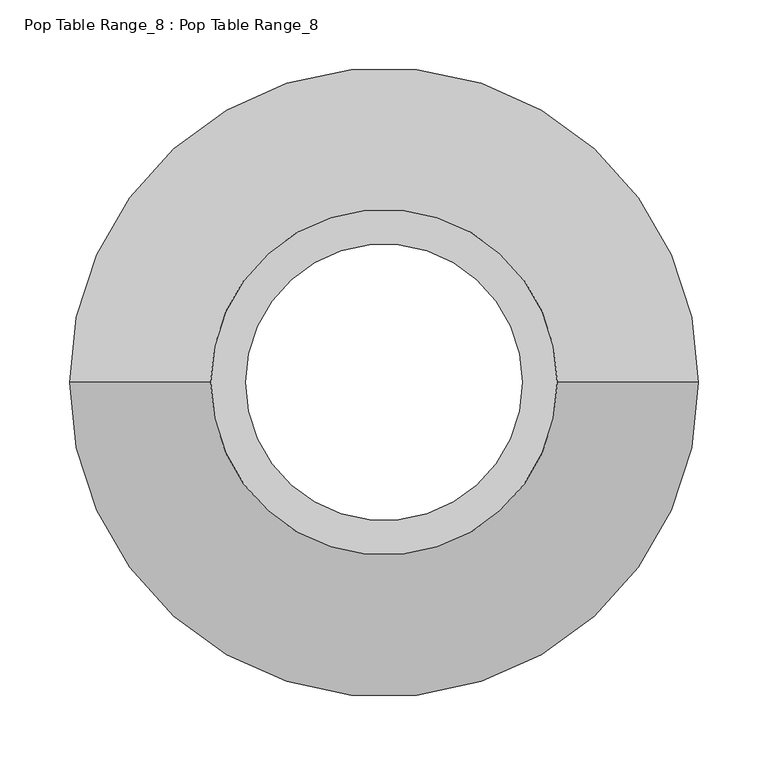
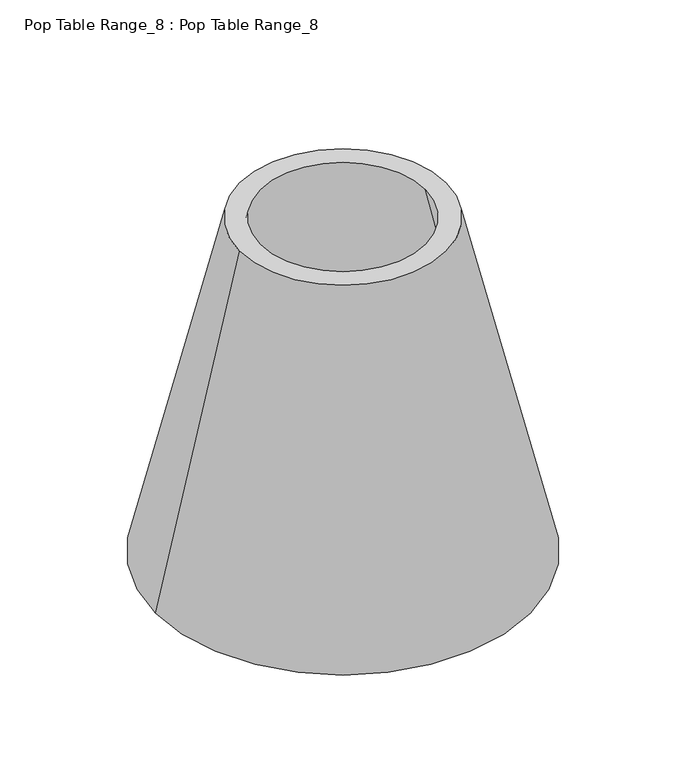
"""IFC4 building model written with IfcOpenShell, lengths in millimetres: proxy geometry, Pop Table Range_8 : Pop Table Range_8."""

from ifc_helpers import new_model, si_unit, frame, origin, place, context, project, spatial, polyline, circle_curve, source, transform, mapped, element, save
from ifc_brep_helpers import plane_surface, revolved_surface, advanced_brep


def pop_table_range_8_pop_table_range_8_3dfe521d(model_context):
    return source(origin(), model_context, "Body", "AdvancedBrep", [
        advanced_brep(
        [(200.6999726, 0.0, 0.0), (-200.6999726, 0.0, 0.0), (-99.2673854, 0.0, 425.0), (99.2673854, 0.0, 425.0), (124.3288576, 0.0, 425.0), (-124.3288576, 0.0, 425.0), (-225.7614448, 0.0, 0.0), (225.7614448, 0.0, 0.0)],
        [
            (0, 1, circle_curve(frame((0.0, 0.0, 0.0), z_axis=(0.0, 0.0, -1.0), x_axis=(-1.0, 0.0, 0.0)), 200.6999726)),
            (1, 2),
            (2, 3, circle_curve(frame((0.0, 0.0, 425.0), z_axis=(0.0, 0.0, 1.0), x_axis=(-1.0, 0.0, 0.0)), 99.2673854)),
            (3, 0),
            (4, 5, circle_curve(frame((0.0, 0.0, 425.0), z_axis=(0.0, 0.0, -1.0), x_axis=(-1.0, 0.0, 0.0)), 124.3288576)),
            (5, 6),
            (6, 7, circle_curve(frame((0.0, 0.0, 0.0), z_axis=(0.0, 0.0, 1.0), x_axis=(-1.0, 0.0, 0.0)), 225.7614448)),
            (7, 4),
            (1, 0, circle_curve(frame((0.0, 0.0, 0.0), z_axis=(0.0, 0.0, -1.0), x_axis=(1.0, 0.0, 0.0)), 200.6999726)),
            (3, 2, circle_curve(frame((0.0, 0.0, 425.0), z_axis=(0.0, 0.0, 1.0), x_axis=(1.0, 0.0, 0.0)), 99.2673854)),
            (6, 7, circle_curve(frame((0.0, 0.0, 0.0), z_axis=(0.0, 0.0, -1.0), x_axis=(1.0, 0.0, 0.0)), 225.7614448)),
            (5, 4, circle_curve(frame((0.0, 0.0, 425.0), z_axis=(0.0, 0.0, -1.0), x_axis=(1.0, 0.0, 0.0)), 124.3288576)),
        ],
        [
            revolved_surface(polyline([(-99.2673854, 0.0, 425.0), (-200.6999726, 0.0, 0.0)]), (0.0, 0.0, 0.0), (0.0, 0.0, 1.0)),
            revolved_surface(polyline([(-225.7614448, 0.0, 0.0), (-124.3288576, 0.0, 425.0)]), (0.0, 0.0, 0.0), (0.0, 0.0, 1.0)),
            revolved_surface(polyline([(99.2673854, 0.0, 425.0), (200.6999726, 0.0, 0.0)]), (0.0, 0.0, 0.0), (0.0, 0.0, 1.0)),
            plane_surface(frame((0.0, 0.0, 0.0), z_axis=(0.0, 0.0, -1.0), x_axis=(1.0, 0.0, 0.0))),
            revolved_surface(polyline([(225.7614448, 0.0, 0.0), (124.3288576, 0.0, 425.0)]), (0.0, 0.0, 0.0), (0.0, 0.0, 1.0)),
            plane_surface(frame((0.0, 0.0, 425.0), z_axis=(0.0, 0.0, 1.0), x_axis=(1.0, 0.0, 0.0))),
        ],
        [
            (0, [[1, 2, 3, 4]]),
            (1, [[5, 6, 7, 8]]),
            (2, [[9, -4, 10, -2]]),
            (3, [[11, -7], [-9, -1]]),
            (4, [[12, -8, -11, -6]]),
            (5, [[-12, -5], [-10, -3]]),
        ],
    ),
    ])


if __name__ == "__main__":
    model = new_model("IFC4")
    model_context = context("Model", 3, world=origin())
    ifc_project = project(units=[si_unit("LENGTHUNIT", "METRE", prefix="MILLI")], contexts=[model_context])
    site = spatial("IfcSite", under=ifc_project)
    building = spatial("IfcBuilding", under=site)
    placement = place(None, origin())
    pop_table_range_8_pop_table_range_8_shape = pop_table_range_8_pop_table_range_8_3dfe521d(model_context)
    element("IfcBuildingElementProxy", 1, Name="Pop Table Range_8 : Pop Table Range_8", ObjectType="Pop Table Range_8 : Pop Table Range_8", at=placement, inside=building, context=model_context, shape_type="MappedRepresentation", body=[
        mapped(pop_table_range_8_pop_table_range_8_shape, transform((0.0, 0.0, 0.0), x_axis=(1.0, 0.0, 0.0), y_axis=(0.0, 1.0, 0.0), z_axis=(0.0, 0.0, 1.0))),
    ])
    save(model, "model.ifc")
